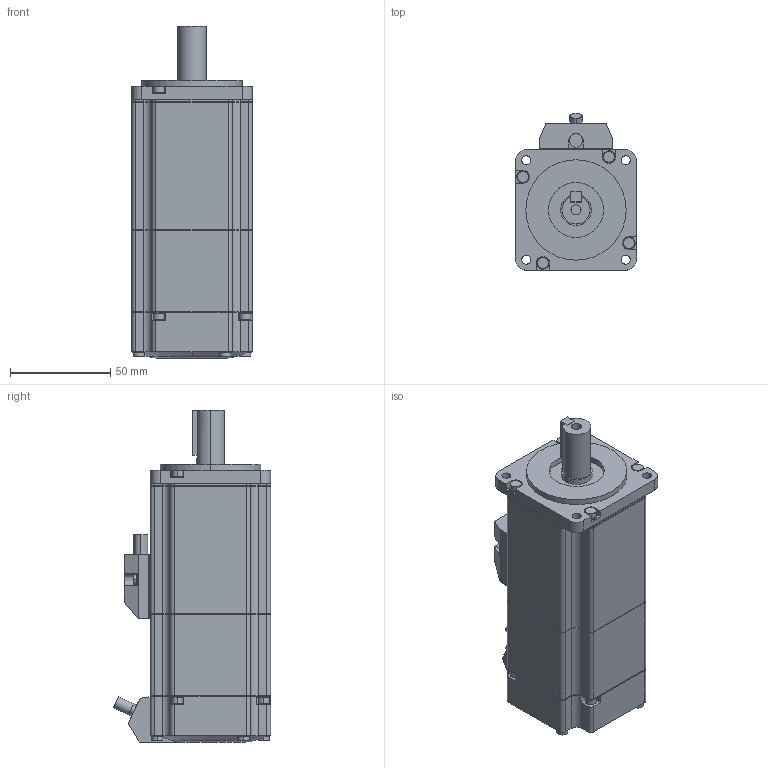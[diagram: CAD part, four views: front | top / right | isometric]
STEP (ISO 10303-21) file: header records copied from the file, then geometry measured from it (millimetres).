
FILE_DESCRIPTION (( 'STEP AP203' ), '1' );
FILE_NAME ('R88M_G40030T_BS2.step', '2008-09-10T07:20:14', ( 'OSMC1.0 T' ), ( 'T' ), 'SwSTEP 2.0', 'SolidWorks 2002025', '' );
FILE_SCHEMA (( 'CONFIG_CONTROL_DESIGN' ));
Length unit declared in the file: millimetre
Products named in the file (1): R88M_G40030T_BS2
Bounding box: 60 x 78.35 x 165.5 mm (x, y, z)
Volume: 459196.9 mm3; surface area: 44266.4 mm2
Topology: 1 solids, 1 shells, 421 faces, 1108 edges, 732 vertices
Faces by surface type: plane 227, cylinder 191, cone 2, torus 1
Entity records: 13209 total; most frequent: DIRECTION 2344, CARTESIAN_POINT 2309, ORIENTED_EDGE 2216, EDGE_CURVE 1108, AXIS2_PLACEMENT_3D 819, VERTEX_POINT 732, LINE 706, VECTOR 706
